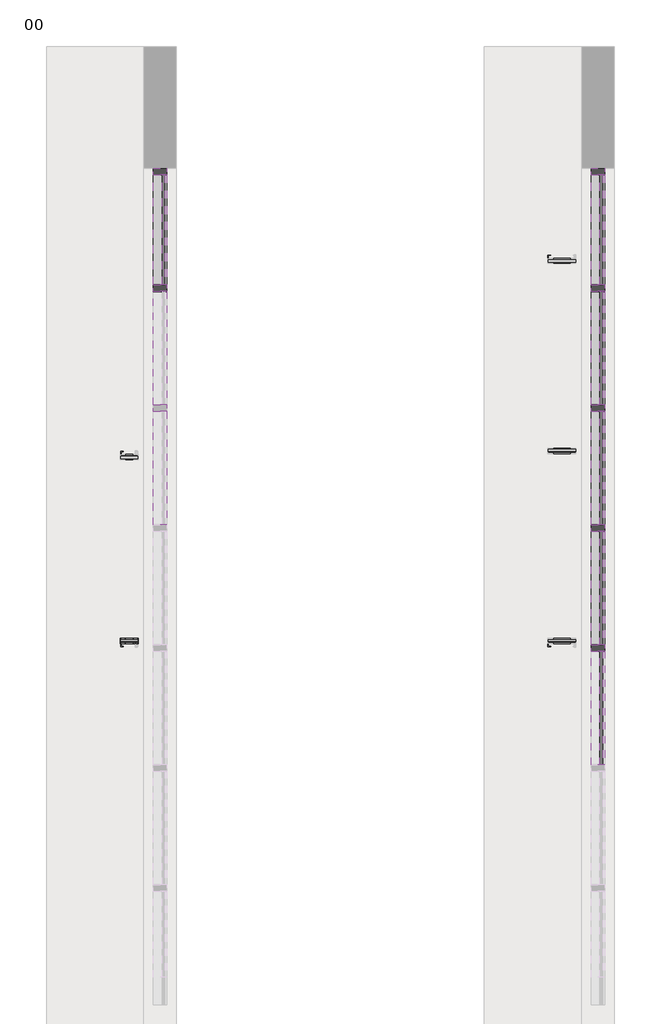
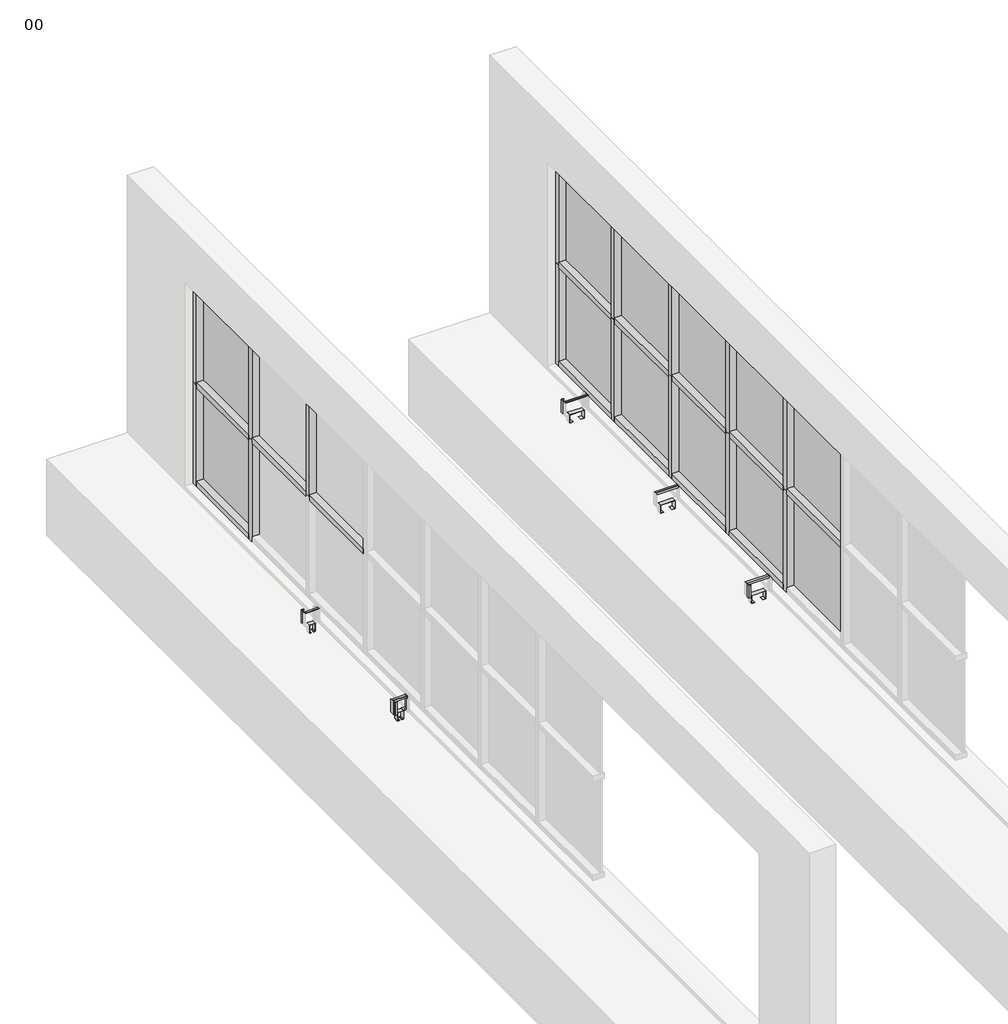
# One storey, part 2 of 4: 35 members, 15 proxies, 12 plates.
"""IFC4 building model written with IfcOpenShell, lengths in millimetres."""

from ifc_helpers import new_model, si_unit, frame, origin, place, context, project, spatial, polyline, circle_curve, transform, mapped, element, save
from ifc_brep_helpers import plane_surface, cylinder_surface, revolved_surface, advanced_brep
from components import support_bracket_1_support_bracket_4_2f0baab2, support_bracket_12_support_bracket_3_113736d0, support_bracket_13_support_bracket_13_55ad3be6, support_bracket_16_support_bracket_3_4fd1d1bb, support_bracket_21_support_bracket_3_4d450183, support_bracket_23_support_bracket_4_a1764723, support_bracket_25_support_bracket_13_f6224672, support_bracket_27_support_bracket_13_70b3b304, support_bracket_29_support_bracket_13_56b2ad6d, support_bracket_3_support_bracket_3_71282282, support_bracket_7_support_bracket_3_e27765c6, support_bracket_9_support_bracket_4_35a73b24, member_c66fc3aa, member_e0e8bc7f, member_2b49869a, member_e70b02d8, member_ac28e731, member_75074519, member_3d44bae5, member_bad99366, system_panel_glazed_e46957e3, system_panel_glazed_e2c07b03, system_panel_glazed_19fcf1f5, system_panel_glazed_c41cfb10

model = new_model("IFC4")

# Units and contexts
model_context = context("Model", 3, world=origin())
ifc_project = project(units=[si_unit("LENGTHUNIT", "METRE", prefix="MILLI")], contexts=[model_context])

# Site, building, storey
site = spatial("IfcSite", under=ifc_project)
building = spatial("IfcBuilding", under=site)
storey = spatial("IfcBuildingStorey", under=building, Name="00", Elevation=0.0)

# Proxies
placement = place(None, origin())
support_bracket_1_support_bracket_4_shape = support_bracket_1_support_bracket_4_2f0baab2(model_context)
element("IfcBuildingElementProxy", 1, Name="Support Bracket 1 : Support Bracket 4", ObjectType="Support Bracket 1 : Support Bracket 4", at=placement, inside=storey, context=model_context, shape_type="MappedRepresentation", body=[
    mapped(support_bracket_1_support_bracket_4_shape, transform((225.9615841, 8.9577393, 0.0), x_axis=(1.0, 0.0, 0.0), y_axis=(0.0, 1.0, 0.0), z_axis=(0.0, 0.0, 1.0))),
])
support_bracket_12_support_bracket_3_shape = support_bracket_12_support_bracket_3_113736d0(model_context)
element("IfcBuildingElementProxy", 2, Name="Support Bracket 12 : Support Bracket 3", ObjectType="Support Bracket 12 : Support Bracket 3", at=placement, inside=storey, context=model_context, shape_type="MappedRepresentation", body=[
    mapped(support_bracket_12_support_bracket_3_shape, transform((0.0, 6.35, 12.859367), x_axis=(1.0, 0.0, 0.0), y_axis=(0.0, 1.0, 0.0), z_axis=(0.0, 0.0, 1.0))),
])
support_bracket_13_support_bracket_13_shape = support_bracket_13_support_bracket_13_55ad3be6(model_context)
element("IfcBuildingElementProxy", 3, Name="Support Bracket 13 : Support Bracket 13", ObjectType="Support Bracket 13 : Support Bracket 13", at=placement, inside=storey, context=model_context, shape_type="MappedRepresentation", body=[
    mapped(support_bracket_13_support_bracket_13_shape, transform((0.0, 0.0, 0.0), x_axis=(1.0, 0.0, 0.0), y_axis=(0.0, 1.0, 0.0), z_axis=(0.0, 0.0, 1.0))),
])
element("IfcBuildingElementProxy", 4, Name="Support Bracket 14 : Support Bracket 13", ObjectType="Support Bracket 14 : Support Bracket 13", at=placement, inside=storey, context=model_context, shape_type="MappedRepresentation", body=[
    mapped(support_bracket_13_support_bracket_13_shape, transform((0.0, 1787.7035937, 0.0), x_axis=(1.0, 0.0, 0.0), y_axis=(0.0, 1.0, 0.0), z_axis=(0.0, 0.0, 1.0))),
])
element("IfcBuildingElementProxy", 5, Name="Support Bracket 15 : Support Bracket 1", ObjectType="Support Bracket 15 : Support Bracket 1", at=placement, inside=storey, context=model_context, shape_type="AdvancedBrep", body=[
    advanced_brep(
    [(11789.603734, 1112.0182928, 1014.7101562), (11748.8168902, 1112.0182928, 1014.7101562), (11745.7688902, 1112.0182928, 1011.6621562), (11745.7688902, 1112.0182928, 917.448), (11742.7208902, 1112.0182928, 914.4), (11719.7735777, 1112.0182928, 914.4), (11719.7735777, 1112.0182928, 917.575), (11739.5458902, 1112.0182928, 917.575), (11742.5938902, 1112.0182928, 920.623), (11742.5938902, 1112.0182928, 1014.8371562), (11745.6418902, 1112.0182928, 1017.8851562), (11785.285734, 1112.0182928, 1017.8851562), (11788.333734, 1112.0182928, 1020.9331562), (11788.333734, 1112.0182928, 1170.1042846), (11791.508734, 1112.0182928, 1170.1042846), (11791.508734, 1112.0182928, 1016.6151562), (11791.508734, 1061.2182928, 1016.6151562), (11789.603734, 1061.2182928, 1014.7101562), (11791.508734, 1061.2182928, 1170.1042846), (11788.333734, 1061.2182928, 1170.1042846), (11788.333734, 1061.2182928, 1020.9331562), (11785.285734, 1061.2182928, 1017.8851562), (11745.6418902, 1061.2182928, 1017.8851562), (11764.3059261, 1061.2182928, 1017.8851562), (11764.3059261, 1079.4639543, 1017.8851562), (11767.4809261, 1079.4639543, 1017.8851562), (11767.4809261, 1061.2182928, 1017.8851562), (11742.5938902, 1061.2182928, 1014.8371562), (11742.5938902, 1061.2182928, 920.623), (11739.5458902, 1061.2182928, 917.575), (11719.7735777, 1061.2182928, 917.575), (11742.7208902, 1061.2182928, 914.4), (11719.7735777, 1061.2182928, 914.4), (11745.7688902, 1061.2182928, 917.448), (11745.7688902, 1061.2182928, 1011.6621562), (11748.8168902, 1061.2182928, 1014.7101562), (11767.518104, 1061.2182928, 1014.7101562), (11767.518104, 1079.4639543, 1014.7101562), (11764.3059261, 1079.4639543, 1014.7101562), (11764.3059261, 1061.2182928, 1014.7101562), (11767.4809261, 1079.4639543, 1015.1226469), (11767.4809261, 1061.2182928, 1015.1226469)],
    [
        (0, 1),
        (1, 2, circle_curve(frame((11748.8168902, 1112.0182928, 1011.6621562), z_axis=(0.0, -1.0, 0.0), x_axis=(-1.0, 0.0, 0.0)), 3.048)),
        (2, 3),
        (3, 4, circle_curve(frame((11742.7208902, 1112.0182928, 917.448), z_axis=(0.0, 1.0, 0.0), x_axis=(-1.0, 0.0, 0.0)), 3.048)),
        (4, 5),
        (5, 6),
        (6, 7),
        (7, 8, circle_curve(frame((11739.5458902, 1112.0182928, 920.623), z_axis=(0.0, -1.0, 0.0), x_axis=(-1.0, 0.0, 0.0)), 3.048)),
        (8, 9),
        (9, 10, circle_curve(frame((11745.6418902, 1112.0182928, 1014.8371562), z_axis=(0.0, 1.0, 0.0), x_axis=(-1.0, 0.0, 0.0)), 3.048)),
        (10, 11),
        (11, 12, circle_curve(frame((11785.285734, 1112.0182928, 1020.9331562), z_axis=(0.0, -1.0, 0.0), x_axis=(-1.0, 0.0, 0.0)), 3.048)),
        (12, 13),
        (13, 14),
        (14, 15),
        (15, 0, circle_curve(frame((11789.603734, 1112.0182928, 1016.6151562), z_axis=(0.0, 1.0, 0.0), x_axis=(-1.0, 0.0, 0.0)), 1.905)),
        (15, 16),
        (16, 17, circle_curve(frame((11789.603734, 1061.2182928, 1016.6151562), z_axis=(0.0, 1.0, 0.0), x_axis=(-1.0, 0.0, 0.0)), 1.905)),
        (17, 0),
        (14, 18),
        (18, 16),
        (13, 19),
        (19, 18),
        (12, 20),
        (20, 19),
        (11, 21),
        (21, 20, circle_curve(frame((11785.285734, 1061.2182928, 1020.9331562), z_axis=(0.0, -1.0, 0.0), x_axis=(-1.0, 0.0, 0.0)), 3.048)),
        (10, 22),
        (22, 23),
        (23, 24),
        (24, 25),
        (25, 26),
        (26, 21),
        (9, 27),
        (27, 22, circle_curve(frame((11745.6418902, 1061.2182928, 1014.8371562), z_axis=(0.0, 1.0, 0.0), x_axis=(-1.0, 0.0, 0.0)), 3.048)),
        (8, 28),
        (28, 27),
        (7, 29),
        (29, 28, circle_curve(frame((11739.5458902, 1061.2182928, 920.623), z_axis=(0.0, -1.0, 0.0), x_axis=(-1.0, 0.0, 0.0)), 3.048)),
        (6, 30),
        (30, 29),
        (4, 31),
        (31, 32),
        (32, 5),
        (3, 33),
        (33, 31, circle_curve(frame((11742.7208902, 1061.2182928, 917.448), z_axis=(0.0, 1.0, 0.0), x_axis=(-1.0, 0.0, 0.0)), 3.048)),
        (2, 34),
        (34, 33),
        (1, 35),
        (35, 34, circle_curve(frame((11748.8168902, 1061.2182928, 1011.6621562), z_axis=(0.0, -1.0, 0.0), x_axis=(-1.0, 0.0, 0.0)), 3.048)),
        (17, 36),
        (36, 37),
        (37, 38),
        (38, 39),
        (39, 35),
        (30, 32),
        (39, 23),
        (24, 38),
        (37, 40, circle_curve(frame((11769.7878177, 1079.4639543, 1015.1226469), z_axis=(0.0, 1.0, 0.0), x_axis=(1.0, 0.0, 0.0)), 2.3068916)),
        (40, 25),
        (36, 41, circle_curve(frame((11769.7878177, 1061.2182928, 1015.1226469), z_axis=(0.0, 1.0, 0.0), x_axis=(1.0, 0.0, 0.0)), 2.3068916)),
        (41, 40),
        (41, 26),
    ],
    [
        plane_surface(frame((11637.918109, 1112.0182928, 1014.7101563), z_axis=(0.0, 1.0, 0.0), x_axis=(-1.0, 0.0, 0.0))),
        cylinder_surface(frame((11789.603734, 1061.2182928, 1016.6151562), z_axis=(0.0, -1.0, 0.0), x_axis=(-1.0, 0.0, 0.0)), 1.905),
        plane_surface(frame((11791.508734, 1061.2182928, 1016.6151562), z_axis=(1.0, 0.0, 0.0), x_axis=(0.0, 1.0, 0.0))),
        plane_surface(frame((11791.508734, 1061.2182928, 1170.1042846), z_axis=(0.0, 0.0, 1.0), x_axis=(0.0, 1.0, 0.0))),
        plane_surface(frame((11788.333734, 1061.2182928, 1170.1042846), z_axis=(-1.0, 0.0, 0.0), x_axis=(0.0, 1.0, 0.0))),
        revolved_surface(polyline([(11782.237733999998, 1112.0182928, 1020.9331562), (11782.237733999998, 1061.2182928, 1020.9331562)]), (11785.285734, 1061.2182928, 1020.9331562), (0.0, 1.0, 0.0)),
        plane_surface(frame((11785.285734, 1061.2182928, 1017.8851562), z_axis=(0.0, 0.0, 1.0), x_axis=(0.0, 1.0, 0.0))),
        cylinder_surface(frame((11745.6418902, 1061.2182928, 1014.8371562), z_axis=(0.0, -1.0, 0.0), x_axis=(-1.0, 0.0, 0.0)), 3.048),
        plane_surface(frame((11742.5938902, 1061.2182928, 1014.8371562), z_axis=(-1.0, 0.0, 0.0), x_axis=(0.0, 1.0, 0.0))),
        revolved_surface(polyline([(11736.497890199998, 1112.0182928, 920.623), (11736.497890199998, 1061.2182928, 920.623)]), (11739.5458902, 1061.2182928, 920.623), (0.0, 1.0, 0.0)),
        plane_surface(frame((11739.5458902, 1061.2182928, 917.575), z_axis=(0.0, 0.0, 1.0), x_axis=(0.0, 1.0, 0.0))),
        plane_surface(frame((11719.7735777, 1061.2182928, 914.4), z_axis=(0.0, 0.0, -1.0), x_axis=(0.0, 1.0, 0.0))),
        cylinder_surface(frame((11742.7208902, 1061.2182928, 917.448), z_axis=(0.0, -1.0, 0.0), x_axis=(-1.0, 0.0, 0.0)), 3.048),
        plane_surface(frame((11745.7688902, 1061.2182928, 917.448), z_axis=(1.0, 0.0, 0.0), x_axis=(0.0, 1.0, 0.0))),
        revolved_surface(polyline([(11745.768890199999, 1112.0182928, 1011.6621562), (11745.768890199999, 1061.2182928, 1011.6621562)]), (11748.8168902, 1061.2182928, 1011.6621562), (0.0, 1.0, 0.0)),
        plane_surface(frame((11748.8168902, 1061.2182928, 1014.7101562), z_axis=(0.0, 0.0, -1.0), x_axis=(0.0, 1.0, 0.0))),
        plane_surface(frame((11637.918109, 1061.2182928, 1014.7101562), z_axis=(0.0, -1.0, 0.0), x_axis=(1.0, 0.0, 0.0))),
        plane_surface(frame((11719.7735777, 1061.2182928, 917.575), z_axis=(-1.0, 0.0, 0.0), x_axis=(0.0, 1.0, 0.0))),
        plane_surface(frame((11767.4809261, 1079.4639543, 1025.7141928), z_axis=(0.0, -1.0, 0.0), x_axis=(1.0, 0.0, 0.0))),
        plane_surface(frame((11764.3059261, 1030.7382928, 1025.7141928), z_axis=(1.0, 0.0, 0.0), x_axis=(0.0, 1.0, 0.0))),
        cylinder_surface(frame((11769.7878177, 1079.4639543, 1015.1226469), z_axis=(0.0, 1.0, 0.0), x_axis=(1.0, 0.0, 0.0)), 2.3068916),
        plane_surface(frame((11767.4809261, 1030.7382928, 1015.1226469), z_axis=(-1.0, 0.0, 0.0), x_axis=(0.0, 1.0, 0.0))),
    ],
    [
        (0, [[1, 2, 3, 4, 5, 6, 7, 8, 9, 10, 11, 12, 13, 14, 15, 16]]),
        (1, [[-16, 17, 18, 19]]),
        (2, [[-15, 20, 21, -17]]),
        (3, [[-14, 22, 23, -20]]),
        (4, [[-13, 24, 25, -22]]),
        (5, [[-12, 26, 27, -24]]),
        (6, [[-11, 28, 29, 30, 31, 32, 33, -26]]),
        (7, [[-10, 34, 35, -28]]),
        (8, [[-9, 36, 37, -34]]),
        (9, [[-8, 38, 39, -36]]),
        (10, [[-7, 40, 41, -38]]),
        (11, [[-5, 42, 43, 44]]),
        (12, [[-4, 45, 46, -42]]),
        (13, [[-3, 47, 48, -45]]),
        (14, [[-2, 49, 50, -47]]),
        (15, [[-1, -19, 51, 52, 53, 54, 55, -49]]),
        (16, [[-35, -37, -39, -41, 56, -43, -46, -48, -50, -55, 57, -29]]),
        (17, [[-6, -44, -56, -40]]),
        (18, [[58, -53, 59, 60, -31]]),
        (19, [[-58, -30, -57, -54]]),
        (20, [[-59, -52, 61, 62]]),
        (21, [[-60, -62, 63, -32]]),
        (16, [[-18, -21, -23, -25, -27, -33, -63, -61, -51]]),
    ],
),
    advanced_brep(
    [(11625.7340465, 1061.2182928, 1014.7101562), (11666.5208902, 1061.2182928, 1014.7101562), (11669.5688902, 1061.2182928, 1011.6621562), (11669.5688902, 1061.2182928, 917.448), (11672.6168902, 1061.2182928, 914.4), (11695.5642027, 1061.2182928, 914.4), (11695.5642027, 1061.2182928, 917.575), (11675.7918902, 1061.2182928, 917.575), (11672.7438902, 1061.2182928, 920.623), (11672.7438902, 1061.2182928, 1014.8371562), (11669.6958902, 1061.2182928, 1017.8851562), (11630.0520465, 1061.2182928, 1017.8851562), (11627.0040465, 1061.2182928, 1020.9331562), (11627.0040465, 1061.2182928, 1170.1042846), (11623.8290465, 1061.2182928, 1170.1042846), (11623.8290465, 1061.2182928, 1016.6151562), (11625.7340465, 1112.0182928, 1014.7101563), (11666.5208902, 1112.0182928, 1014.7101563), (11669.5688902, 1112.0182928, 1011.6621563), (11669.5688902, 1112.0182928, 917.448), (11672.6168902, 1112.0182928, 914.4), (11695.5642027, 1112.0182928, 914.4), (11695.5642027, 1112.0182928, 917.575), (11675.7918902, 1112.0182928, 917.575), (11672.7438902, 1112.0182928, 920.623), (11672.7438902, 1112.0182928, 1014.8371563), (11669.6958902, 1112.0182928, 1017.8851563), (11630.0520465, 1112.0182928, 1017.8851563), (11627.0040465, 1112.0182928, 1020.9331563), (11627.0040465, 1112.0182928, 1170.1042846), (11623.8290465, 1112.0182928, 1170.1042846), (11623.8290465, 1112.0182928, 1016.6151563)],
    [
        (0, 1),
        (1, 2, circle_curve(frame((11666.5208902, 1061.2182928, 1011.6621562), z_axis=(0.0, 1.0, 0.0), x_axis=(1.0, 0.0, 0.0)), 3.048)),
        (2, 3),
        (3, 4, circle_curve(frame((11672.6168902, 1061.2182928, 917.448), z_axis=(0.0, -1.0, 0.0), x_axis=(1.0, 0.0, 0.0)), 3.048)),
        (4, 5),
        (5, 6),
        (6, 7),
        (7, 8, circle_curve(frame((11675.7918902, 1061.2182928, 920.623), z_axis=(0.0, 1.0, 0.0), x_axis=(1.0, 0.0, 0.0)), 3.048)),
        (8, 9),
        (9, 10, circle_curve(frame((11669.6958902, 1061.2182928, 1014.8371562), z_axis=(0.0, -1.0, 0.0), x_axis=(1.0, 0.0, 0.0)), 3.048)),
        (10, 11),
        (11, 12, circle_curve(frame((11630.0520465, 1061.2182928, 1020.9331562), z_axis=(0.0, 1.0, 0.0), x_axis=(1.0, 0.0, 0.0)), 3.048)),
        (12, 13),
        (13, 14),
        (14, 15),
        (15, 0, circle_curve(frame((11625.7340465, 1061.2182928, 1016.6151562), z_axis=(0.0, -1.0, 0.0), x_axis=(1.0, 0.0, 0.0)), 1.905)),
        (16, 17),
        (17, 1),
        (0, 16),
        (17, 18, circle_curve(frame((11666.5208902, 1112.0182928, 1011.6621563), z_axis=(0.0, 1.0, 0.0), x_axis=(1.0, 0.0, 0.0)), 3.048)),
        (18, 2),
        (18, 19),
        (19, 3),
        (19, 20, circle_curve(frame((11672.6168902, 1112.0182928, 917.448), z_axis=(0.0, -1.0, 0.0), x_axis=(1.0, 0.0, 0.0)), 3.048)),
        (20, 4),
        (20, 21),
        (21, 5),
        (22, 23),
        (23, 7),
        (6, 22),
        (23, 24, circle_curve(frame((11675.7918902, 1112.0182928, 920.623), z_axis=(0.0, 1.0, 0.0), x_axis=(1.0, 0.0, 0.0)), 3.048)),
        (24, 8),
        (24, 25),
        (25, 9),
        (25, 26, circle_curve(frame((11669.6958902, 1112.0182928, 1014.8371563), z_axis=(0.0, -1.0, 0.0), x_axis=(1.0, 0.0, 0.0)), 3.048)),
        (26, 10),
        (26, 27),
        (27, 11),
        (27, 28, circle_curve(frame((11630.0520465, 1112.0182928, 1020.9331563), z_axis=(0.0, 1.0, 0.0), x_axis=(1.0, 0.0, 0.0)), 3.048)),
        (28, 12),
        (28, 29),
        (29, 13),
        (29, 30),
        (30, 14),
        (30, 31),
        (31, 15),
        (31, 16, circle_curve(frame((11625.7340465, 1112.0182928, 1016.6151563), z_axis=(0.0, -1.0, 0.0), x_axis=(1.0, 0.0, 0.0)), 1.905)),
        (22, 21),
    ],
    [
        plane_surface(frame((11637.918109, 1061.2182928, 1014.7101562), z_axis=(0.0, -1.0, 0.0), x_axis=(1.0, 0.0, 0.0))),
        plane_surface(frame((11625.7340465, 1061.2182928, 1014.7101562), z_axis=(0.0, 0.0, -1.0), x_axis=(0.0, 1.0, 0.0))),
        revolved_surface(polyline([(11669.5688902, 1112.0182928, 1011.6621563), (11669.5688902, 1061.2182928, 1011.6621563)]), (11666.5208902, 1112.0182928, 1011.6621563), (0.0, 1.0, 0.0)),
        plane_surface(frame((11669.5688902, 1061.2182928, 1011.6621562), z_axis=(-1.0, 0.0, 0.0), x_axis=(0.0, 1.0, 0.0))),
        cylinder_surface(frame((11672.6168902, 1112.0182928, 917.448), z_axis=(0.0, -1.0, 0.0), x_axis=(1.0, 0.0, 0.0)), 3.048),
        plane_surface(frame((11672.6168902, 1061.2182928, 914.4), z_axis=(0.0, 0.0, -1.0), x_axis=(0.0, 1.0, 0.0))),
        plane_surface(frame((11695.5642027, 1061.2182928, 917.575), z_axis=(0.0, 0.0, 1.0), x_axis=(0.0, 1.0, 0.0))),
        revolved_surface(polyline([(11678.8398902, 1112.0182928, 920.623), (11678.8398902, 1061.2182928, 920.623)]), (11675.7918902, 1112.0182928, 920.623), (0.0, 1.0, 0.0)),
        plane_surface(frame((11672.7438902, 1061.2182928, 920.623), z_axis=(1.0, 0.0, 0.0), x_axis=(0.0, 1.0, 0.0))),
        cylinder_surface(frame((11669.6958902, 1112.0182928, 1014.8371563), z_axis=(0.0, -1.0, 0.0), x_axis=(1.0, 0.0, 0.0)), 3.048),
        plane_surface(frame((11669.6958902, 1061.2182928, 1017.8851562), z_axis=(0.0, 0.0, 1.0), x_axis=(0.0, 1.0, 0.0))),
        revolved_surface(polyline([(11633.100046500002, 1112.0182928, 1020.9331563), (11633.100046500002, 1061.2182928, 1020.9331563)]), (11630.0520465, 1112.0182928, 1020.9331563), (0.0, 1.0, 0.0)),
        plane_surface(frame((11627.0040465, 1061.2182928, 1020.9331562), z_axis=(1.0, 0.0, 0.0), x_axis=(0.0, 1.0, 0.0))),
        plane_surface(frame((11627.0040465, 1061.2182928, 1170.1042846), z_axis=(0.0, 0.0, 1.0), x_axis=(0.0, 1.0, 0.0))),
        plane_surface(frame((11623.8290465, 1061.2182928, 1170.1042846), z_axis=(-1.0, 0.0, 0.0), x_axis=(0.0, 1.0, 0.0))),
        cylinder_surface(frame((11625.7340465, 1112.0182928, 1016.6151563), z_axis=(0.0, -1.0, 0.0), x_axis=(1.0, 0.0, 0.0)), 1.905),
        plane_surface(frame((11637.918109, 1112.0182928, 1014.7101563), z_axis=(0.0, 1.0, 0.0), x_axis=(-1.0, 0.0, 0.0))),
        plane_surface(frame((11695.5642027, 1061.2182928, 914.4), z_axis=(1.0, 0.0, 0.0), x_axis=(0.0, 1.0, 0.0))),
    ],
    [
        (0, [[1, 2, 3, 4, 5, 6, 7, 8, 9, 10, 11, 12, 13, 14, 15, 16]]),
        (1, [[17, 18, -1, 19]]),
        (2, [[20, 21, -2, -18]]),
        (3, [[22, 23, -3, -21]]),
        (4, [[24, 25, -4, -23]]),
        (5, [[26, 27, -5, -25]]),
        (6, [[28, 29, -7, 30]]),
        (7, [[31, 32, -8, -29]]),
        (8, [[33, 34, -9, -32]]),
        (9, [[35, 36, -10, -34]]),
        (10, [[37, 38, -11, -36]]),
        (11, [[39, 40, -12, -38]]),
        (12, [[41, 42, -13, -40]]),
        (13, [[43, 44, -14, -42]]),
        (14, [[45, 46, -15, -44]]),
        (15, [[47, -19, -16, -46]]),
        (16, [[-47, -45, -43, -41, -39, -37, -35, -33, -31, -28, 48, -26, -24, -22, -20, -17]]),
        (17, [[-48, -30, -6, -27]]),
    ],
),
])
support_bracket_16_support_bracket_3_shape = support_bracket_16_support_bracket_3_4fd1d1bb(model_context)
element("IfcBuildingElementProxy", 6, Name="Support Bracket 16 : Support Bracket 3", ObjectType="Support Bracket 16 : Support Bracket 3", at=placement, inside=storey, context=model_context, shape_type="MappedRepresentation", body=[
    mapped(support_bracket_16_support_bracket_3_shape, transform((0.0, 6.35, 12.859367), x_axis=(1.0, 0.0, 0.0), y_axis=(0.0, 1.0, 0.0), z_axis=(0.0, 0.0, 1.0))),
])
element("IfcBuildingElementProxy", 7, Name="Support Bracket 18 : Support Bracket 4", ObjectType="Support Bracket 18 : Support Bracket 4", at=placement, inside=storey, context=model_context, shape_type="MappedRepresentation", body=[
    mapped(support_bracket_1_support_bracket_4_shape, transform((-3790.2149784, 8.9577393, 0.0), x_axis=(1.0, 0.0, 0.0), y_axis=(0.0, 1.0, 0.0), z_axis=(0.0, 0.0, 1.0))),
])
support_bracket_21_support_bracket_3_shape = support_bracket_21_support_bracket_3_4d450183(model_context)
element("IfcBuildingElementProxy", 8, Name="Support Bracket 21 : Support Bracket 3", ObjectType="Support Bracket 21 : Support Bracket 3", at=placement, inside=storey, context=model_context, shape_type="MappedRepresentation", body=[
    mapped(support_bracket_21_support_bracket_3_shape, transform((0.0, -6.35, 12.859367), x_axis=(1.0, 0.0, 0.0), y_axis=(0.0, 1.0, 0.0), z_axis=(0.0, 0.0, 1.0))),
])
support_bracket_23_support_bracket_4_shape = support_bracket_23_support_bracket_4_a1764723(model_context)
element("IfcBuildingElementProxy", 9, Name="Support Bracket 23 : Support Bracket 4", ObjectType="Support Bracket 23 : Support Bracket 4", at=placement, inside=storey, context=model_context, shape_type="MappedRepresentation", body=[
    mapped(support_bracket_23_support_bracket_4_shape, transform((-3790.2149784, -8.9577393, 0.0), x_axis=(1.0, 0.0, 0.0), y_axis=(0.0, 1.0, 0.0), z_axis=(0.0, 0.0, 1.0))),
])
support_bracket_25_support_bracket_13_shape = support_bracket_25_support_bracket_13_f6224672(model_context)
element("IfcBuildingElementProxy", 10, Name="Support Bracket 25 : Support Bracket 13", ObjectType="Support Bracket 25 : Support Bracket 13", at=placement, inside=storey, context=model_context, shape_type="MappedRepresentation", body=[
    mapped(support_bracket_25_support_bracket_13_shape, transform((0.0, 0.0, 0.0), x_axis=(1.0, 0.0, 0.0), y_axis=(0.0, 1.0, 0.0), z_axis=(0.0, 0.0, 1.0))),
])
support_bracket_27_support_bracket_13_shape = support_bracket_27_support_bracket_13_70b3b304(model_context)
element("IfcBuildingElementProxy", 11, Name="Support Bracket 27 : Support Bracket 13", ObjectType="Support Bracket 27 : Support Bracket 13", at=placement, inside=storey, context=model_context, shape_type="MappedRepresentation", body=[
    mapped(support_bracket_27_support_bracket_13_shape, transform((0.0, 0.0, 0.0), x_axis=(1.0, 0.0, 0.0), y_axis=(0.0, 1.0, 0.0), z_axis=(0.0, 0.0, 1.0))),
])
support_bracket_29_support_bracket_13_shape = support_bracket_29_support_bracket_13_56b2ad6d(model_context)
element("IfcBuildingElementProxy", 12, Name="Support Bracket 29 : Support Bracket 13", ObjectType="Support Bracket 29 : Support Bracket 13", at=placement, inside=storey, context=model_context, shape_type="MappedRepresentation", body=[
    mapped(support_bracket_29_support_bracket_13_shape, transform((0.0, 0.0, 0.0), x_axis=(1.0, 0.0, 0.0), y_axis=(0.0, 1.0, 0.0), z_axis=(0.0, 0.0, 1.0))),
])
support_bracket_3_support_bracket_3_shape = support_bracket_3_support_bracket_3_71282282(model_context)
element("IfcBuildingElementProxy", 13, Name="Support Bracket 3 : Support Bracket 3", ObjectType="Support Bracket 3 : Support Bracket 3", at=placement, inside=storey, context=model_context, shape_type="MappedRepresentation", body=[
    mapped(support_bracket_3_support_bracket_3_shape, transform((0.0, 6.35, 12.859367), x_axis=(1.0, 0.0, 0.0), y_axis=(0.0, 1.0, 0.0), z_axis=(0.0, 0.0, 1.0))),
])
support_bracket_7_support_bracket_3_shape = support_bracket_7_support_bracket_3_e27765c6(model_context)
element("IfcBuildingElementProxy", 14, Name="Support Bracket 7 : Support Bracket 3", ObjectType="Support Bracket 7 : Support Bracket 3", at=placement, inside=storey, context=model_context, shape_type="MappedRepresentation", body=[
    mapped(support_bracket_7_support_bracket_3_shape, transform((0.0, -6.35, 12.859367), x_axis=(1.0, 0.0, 0.0), y_axis=(0.0, 1.0, 0.0), z_axis=(0.0, 0.0, 1.0))),
])
support_bracket_9_support_bracket_4_shape = support_bracket_9_support_bracket_4_35a73b24(model_context)
element("IfcBuildingElementProxy", 15, Name="Support Bracket 9 : Support Bracket 4", ObjectType="Support Bracket 9 : Support Bracket 4", at=placement, inside=storey, context=model_context, shape_type="MappedRepresentation", body=[
    mapped(support_bracket_9_support_bracket_4_shape, transform((225.9615841, -8.9577393, 0.0), x_axis=(1.0, 0.0, 0.0), y_axis=(0.0, 1.0, 0.0), z_axis=(0.0, 0.0, 1.0))),
])

# Members
member_shape = member_c66fc3aa(model_context)
element("IfcMember", 16, ObjectType="Rectangular Mullion : 2.5\" x 5\" rectangular", at=placement, inside=storey, context=model_context, shape_type="MappedRepresentation", body=[
    mapped(member_shape, transform((16111.3938902, 990.0404245, 3390.4), x_axis=(0.0, 0.0, 1.0), y_axis=(1.0, 0.0, 0.0), z_axis=(0.0, 1.0, 0.0))),
])
element("IfcMember", 17, ObjectType="Rectangular Mullion : 2.5\" x 5\" rectangular", at=placement, inside=storey, context=model_context, shape_type="MappedRepresentation", body=[
    mapped(member_shape, transform((16111.3938902, 2117.8004244, 3390.4), x_axis=(0.0, 0.0, 1.0), y_axis=(1.0, 0.0, 0.0), z_axis=(0.0, 1.0, 0.0))),
])
element("IfcMember", 18, ObjectType="Rectangular Mullion : 2.5\" x 5\" rectangular", at=placement, inside=storey, context=model_context, shape_type="MappedRepresentation", body=[
    mapped(member_shape, transform((16111.3938902, 3245.5604244, 3390.4), x_axis=(0.0, 0.0, 1.0), y_axis=(1.0, 0.0, 0.0), z_axis=(0.0, 1.0, 0.0))),
])
element("IfcMember", 19, ObjectType="Rectangular Mullion : 2.5\" x 5\" rectangular", at=placement, inside=storey, context=model_context, shape_type="MappedRepresentation", body=[
    mapped(member_shape, transform((16111.3938902, 4373.3204243, 3390.4), x_axis=(0.0, 0.0, 1.0), y_axis=(1.0, 0.0, 0.0), z_axis=(0.0, 1.0, 0.0))),
])
element("IfcMember", 20, ObjectType="Rectangular Mullion : 2.5\" x 5\" rectangular", at=placement, inside=storey, context=model_context, shape_type="MappedRepresentation", body=[
    mapped(member_shape, transform((11996.5938902, 4373.3204243, 3390.4), x_axis=(0.0, 0.0, 1.0), y_axis=(1.0, 0.0, 0.0), z_axis=(0.0, 1.0, 0.0))),
])
member_2_shape = member_e0e8bc7f(model_context)
element("IfcMember", 21, ObjectType="Rectangular Mullion : 2.5\" x 5\" rectangular", at=placement, inside=storey, context=model_context, shape_type="MappedRepresentation", body=[
    mapped(member_2_shape, transform((16111.3938902, 4436.8204243, 965.2), x_axis=(0.0, 0.0, -1.0), y_axis=(1.0, 0.0, 0.0), z_axis=(0.0, -1.0, 0.0))),
])
element("IfcMember", 22, ObjectType="Rectangular Mullion : 2.5\" x 5\" rectangular", at=placement, inside=storey, context=model_context, shape_type="MappedRepresentation", body=[
    mapped(member_2_shape, transform((11996.5938902, 4436.8204243, 965.2), x_axis=(0.0, 0.0, -1.0), y_axis=(1.0, 0.0, 0.0), z_axis=(0.0, -1.0, 0.0))),
])
element("IfcMember", 23, ObjectType="Rectangular Mullion : 2.5\" x 5\" rectangular", at=placement, inside=storey, context=model_context, shape_type="MappedRepresentation", body=[
    mapped(member_shape, transform((16111.3938902, 1053.5404245, 965.2), x_axis=(0.0, 0.0, -1.0), y_axis=(1.0, 0.0, 0.0), z_axis=(0.0, -1.0, 0.0))),
])
element("IfcMember", 24, ObjectType="Rectangular Mullion : 2.5\" x 5\" rectangular", at=placement, inside=storey, context=model_context, shape_type="MappedRepresentation", body=[
    mapped(member_shape, transform((16111.3938902, 2181.3004244, 965.2), x_axis=(0.0, 0.0, -1.0), y_axis=(1.0, 0.0, 0.0), z_axis=(0.0, -1.0, 0.0))),
])
element("IfcMember", 25, ObjectType="Rectangular Mullion : 2.5\" x 5\" rectangular", at=placement, inside=storey, context=model_context, shape_type="MappedRepresentation", body=[
    mapped(member_shape, transform((16111.3938902, 3309.0604244, 965.2), x_axis=(0.0, 0.0, -1.0), y_axis=(1.0, 0.0, 0.0), z_axis=(0.0, -1.0, 0.0))),
])
member_3_shape = member_2b49869a(model_context)
element("IfcMember", 26, ObjectType="Rectangular Mullion : 2.5\" x 5\" rectangular", at=placement, inside=storey, context=model_context, shape_type="MappedRepresentation", body=[
    mapped(member_3_shape, transform((16111.3938902, 1021.7904245, 965.2), x_axis=(0.0, 1.0, 0.0), y_axis=(1.0, 0.0, 0.0), z_axis=(0.0, 0.0, -1.0))),
])
element("IfcMember", 27, ObjectType="Rectangular Mullion : 2.5\" x 5\" rectangular", at=placement, inside=storey, context=model_context, shape_type="MappedRepresentation", body=[
    mapped(member_3_shape, transform((16111.3938902, 2149.5504244, 965.2), x_axis=(0.0, 1.0, 0.0), y_axis=(1.0, 0.0, 0.0), z_axis=(0.0, 0.0, -1.0))),
])
element("IfcMember", 28, ObjectType="Rectangular Mullion : 2.5\" x 5\" rectangular", at=placement, inside=storey, context=model_context, shape_type="MappedRepresentation", body=[
    mapped(member_3_shape, transform((16111.3938902, 3277.3104244, 965.2), x_axis=(0.0, 1.0, 0.0), y_axis=(1.0, 0.0, 0.0), z_axis=(0.0, 0.0, -1.0))),
])
element("IfcMember", 29, ObjectType="Rectangular Mullion : 2.5\" x 5\" rectangular", at=placement, inside=storey, context=model_context, shape_type="MappedRepresentation", body=[
    mapped(member_3_shape, transform((16111.3938902, 4405.0704243, 965.2), x_axis=(0.0, 1.0, 0.0), y_axis=(1.0, 0.0, 0.0), z_axis=(0.0, 0.0, -1.0))),
])
element("IfcMember", 30, ObjectType="Rectangular Mullion : 2.5\" x 5\" rectangular", at=placement, inside=storey, context=model_context, shape_type="MappedRepresentation", body=[
    mapped(member_3_shape, transform((11996.5938902, 4405.0704243, 965.2), x_axis=(0.0, 1.0, 0.0), y_axis=(1.0, 0.0, 0.0), z_axis=(0.0, 0.0, -1.0))),
])
member_4_shape = member_e70b02d8(model_context)
element("IfcMember", 31, ObjectType="Rectangular Mullion : 2.5\" x 5\" rectangular", at=placement, inside=storey, context=model_context, shape_type="MappedRepresentation", body=[
    mapped(member_4_shape, transform((16111.3938902, 2117.8004244, 2184.4), x_axis=(0.0, 0.0, 1.0), y_axis=(1.0, 0.0, 0.0), z_axis=(0.0, 1.0, 0.0))),
])
element("IfcMember", 32, ObjectType="Rectangular Mullion : 2.5\" x 5\" rectangular", at=placement, inside=storey, context=model_context, shape_type="MappedRepresentation", body=[
    mapped(member_4_shape, transform((16111.3938902, 3245.5604244, 2184.4), x_axis=(0.0, 0.0, 1.0), y_axis=(1.0, 0.0, 0.0), z_axis=(0.0, 1.0, 0.0))),
])
element("IfcMember", 33, ObjectType="Rectangular Mullion : 2.5\" x 5\" rectangular", at=placement, inside=storey, context=model_context, shape_type="MappedRepresentation", body=[
    mapped(member_4_shape, transform((16111.3938902, 4373.3204243, 2184.4), x_axis=(0.0, 0.0, 1.0), y_axis=(1.0, 0.0, 0.0), z_axis=(0.0, 1.0, 0.0))),
])
element("IfcMember", 34, ObjectType="Rectangular Mullion : 2.5\" x 5\" rectangular", at=placement, inside=storey, context=model_context, shape_type="MappedRepresentation", body=[
    mapped(member_4_shape, transform((11996.5938902, 3245.5604244, 2184.4), x_axis=(0.0, 0.0, 1.0), y_axis=(1.0, 0.0, 0.0), z_axis=(0.0, 1.0, 0.0))),
])
element("IfcMember", 35, ObjectType="Rectangular Mullion : 2.5\" x 5\" rectangular", at=placement, inside=storey, context=model_context, shape_type="MappedRepresentation", body=[
    mapped(member_4_shape, transform((11996.5938902, 4373.3204243, 2184.4), x_axis=(0.0, 0.0, 1.0), y_axis=(1.0, 0.0, 0.0), z_axis=(0.0, 1.0, 0.0))),
])
member_5_shape = member_ac28e731(model_context)
element("IfcMember", 36, ObjectType="Rectangular Mullion : 2.5\" x 5\" rectangular", at=placement, inside=storey, context=model_context, shape_type="MappedRepresentation", body=[
    mapped(member_5_shape, transform((16111.3938902, 5469.3304246, 2184.4), x_axis=(0.0, 0.0, 1.0), y_axis=(1.0, 0.0, 0.0), z_axis=(0.0, 1.0, 0.0))),
])
element("IfcMember", 37, ObjectType="Rectangular Mullion : 2.5\" x 5\" rectangular", at=placement, inside=storey, context=model_context, shape_type="MappedRepresentation", body=[
    mapped(member_5_shape, transform((11996.5938902, 5469.3304246, 2184.4), x_axis=(0.0, 0.0, 1.0), y_axis=(1.0, 0.0, 0.0), z_axis=(0.0, 1.0, 0.0))),
])
element("IfcMember", 38, ObjectType="Rectangular Mullion : 2.5\" x 5\" rectangular", at=placement, inside=storey, context=model_context, shape_type="MappedRepresentation", body=[
    mapped(member_4_shape, transform((16111.3938902, 990.0404245, 2184.4), x_axis=(0.0, 0.0, 1.0), y_axis=(1.0, 0.0, 0.0), z_axis=(0.0, 1.0, 0.0))),
])
element("IfcMember", 39, ObjectType="Rectangular Mullion : 2.5\" x 5\" rectangular", at=placement, inside=storey, context=model_context, shape_type="MappedRepresentation", body=[
    mapped(member_2_shape, transform((16111.3938902, 5469.3304246, 3390.4), x_axis=(0.0, 0.0, 1.0), y_axis=(1.0, 0.0, 0.0), z_axis=(0.0, 1.0, 0.0))),
])
element("IfcMember", 40, ObjectType="Rectangular Mullion : 2.5\" x 5\" rectangular", at=placement, inside=storey, context=model_context, shape_type="MappedRepresentation", body=[
    mapped(member_2_shape, transform((11996.5938902, 5469.3304246, 3390.4), x_axis=(0.0, 0.0, 1.0), y_axis=(1.0, 0.0, 0.0), z_axis=(0.0, 1.0, 0.0))),
])
member_6_shape = member_75074519(model_context)
element("IfcMember", 41, ObjectType="Rectangular Mullion : 2.5\" x 5\" rectangular", at=placement, inside=storey, context=model_context, shape_type="MappedRepresentation", body=[
    mapped(member_6_shape, transform((16111.3938902, 5532.8304246, 965.2), x_axis=(0.0, 1.0, 0.0), y_axis=(1.0, 0.0, 0.0), z_axis=(0.0, 0.0, -1.0))),
])
element("IfcMember", 42, ObjectType="Rectangular Mullion : 2.5\" x 5\" rectangular", at=placement, inside=storey, context=model_context, shape_type="MappedRepresentation", body=[
    mapped(member_6_shape, transform((11996.5938902, 5532.8304246, 965.2), x_axis=(0.0, 1.0, 0.0), y_axis=(1.0, 0.0, 0.0), z_axis=(0.0, 0.0, -1.0))),
])
member_7_shape = member_3d44bae5(model_context)
element("IfcMember", 43, ObjectType="Rectangular Mullion : 2.5\" x 5\" rectangular", at=placement, inside=storey, context=model_context, shape_type="MappedRepresentation", body=[
    mapped(member_7_shape, transform((16111.3938902, 1021.7904245, 2184.4), x_axis=(0.0, 1.0, 0.0), y_axis=(1.0, 0.0, 0.0), z_axis=(0.0, 0.0, -1.0))),
])
element("IfcMember", 44, ObjectType="Rectangular Mullion : 2.5\" x 5\" rectangular", at=placement, inside=storey, context=model_context, shape_type="MappedRepresentation", body=[
    mapped(member_7_shape, transform((16111.3938902, 2149.5504244, 2184.4), x_axis=(0.0, 1.0, 0.0), y_axis=(1.0, 0.0, 0.0), z_axis=(0.0, 0.0, -1.0))),
])
element("IfcMember", 45, ObjectType="Rectangular Mullion : 2.5\" x 5\" rectangular", at=placement, inside=storey, context=model_context, shape_type="MappedRepresentation", body=[
    mapped(member_7_shape, transform((16111.3938902, 3277.3104244, 2184.4), x_axis=(0.0, 1.0, 0.0), y_axis=(1.0, 0.0, 0.0), z_axis=(0.0, 0.0, -1.0))),
])
element("IfcMember", 46, ObjectType="Rectangular Mullion : 2.5\" x 5\" rectangular", at=placement, inside=storey, context=model_context, shape_type="MappedRepresentation", body=[
    mapped(member_7_shape, transform((16111.3938902, 4405.0704243, 2184.4), x_axis=(0.0, 1.0, 0.0), y_axis=(1.0, 0.0, 0.0), z_axis=(0.0, 0.0, -1.0))),
])
element("IfcMember", 47, ObjectType="Rectangular Mullion : 2.5\" x 5\" rectangular", at=placement, inside=storey, context=model_context, shape_type="MappedRepresentation", body=[
    mapped(member_7_shape, transform((11996.5938902, 3277.3104244, 2184.4), x_axis=(0.0, 1.0, 0.0), y_axis=(1.0, 0.0, 0.0), z_axis=(0.0, 0.0, -1.0))),
])
element("IfcMember", 48, ObjectType="Rectangular Mullion : 2.5\" x 5\" rectangular", at=placement, inside=storey, context=model_context, shape_type="MappedRepresentation", body=[
    mapped(member_7_shape, transform((11996.5938902, 4405.0704243, 2184.4), x_axis=(0.0, 1.0, 0.0), y_axis=(1.0, 0.0, 0.0), z_axis=(0.0, 0.0, -1.0))),
])
member_8_shape = member_bad99366(model_context)
element("IfcMember", 49, ObjectType="Rectangular Mullion : 2.5\" x 5\" rectangular", at=placement, inside=storey, context=model_context, shape_type="MappedRepresentation", body=[
    mapped(member_8_shape, transform((16111.3938902, 5532.8304246, 2184.4), x_axis=(0.0, 1.0, 0.0), y_axis=(1.0, 0.0, 0.0), z_axis=(0.0, 0.0, -1.0))),
])
element("IfcMember", 50, ObjectType="Rectangular Mullion : 2.5\" x 5\" rectangular", at=placement, inside=storey, context=model_context, shape_type="MappedRepresentation", body=[
    mapped(member_8_shape, transform((11996.5938902, 5532.8304246, 2184.4), x_axis=(0.0, 1.0, 0.0), y_axis=(1.0, 0.0, 0.0), z_axis=(0.0, 0.0, -1.0))),
])

# Plates
system_panel_glazed_shape = system_panel_glazed_e46957e3(model_context)
element("IfcPlate", 51, ObjectType="System Panel : Glazed", at=placement, inside=storey, context=model_context, shape_type="MappedRepresentation", body=[
    mapped(system_panel_glazed_shape, transform((16111.3938902, 1585.6704245, 1028.7), x_axis=(0.0, 1.0, 0.0), y_axis=(-1.0, 0.0, 0.0), z_axis=(0.0, 0.0, 1.0))),
])
element("IfcPlate", 52, ObjectType="System Panel : Glazed", at=placement, inside=storey, context=model_context, shape_type="MappedRepresentation", body=[
    mapped(system_panel_glazed_shape, transform((16111.3938902, 2713.4304244, 1028.7), x_axis=(0.0, 1.0, 0.0), y_axis=(-1.0, 0.0, 0.0), z_axis=(0.0, 0.0, 1.0))),
])
element("IfcPlate", 53, ObjectType="System Panel : Glazed", at=placement, inside=storey, context=model_context, shape_type="MappedRepresentation", body=[
    mapped(system_panel_glazed_shape, transform((16111.3938902, 3841.1904244, 1028.7), x_axis=(0.0, 1.0, 0.0), y_axis=(-1.0, 0.0, 0.0), z_axis=(0.0, 0.0, 1.0))),
])
element("IfcPlate", 54, ObjectType="System Panel : Glazed", at=placement, inside=storey, context=model_context, shape_type="MappedRepresentation", body=[
    mapped(system_panel_glazed_shape, transform((16111.3938902, 457.9104245, 1028.7), x_axis=(0.0, 1.0, 0.0), y_axis=(-1.0, 0.0, 0.0), z_axis=(0.0, 0.0, 1.0))),
])
system_panel_glazed_2_shape = system_panel_glazed_e2c07b03(model_context)
element("IfcPlate", 55, ObjectType="System Panel : Glazed", at=placement, inside=storey, context=model_context, shape_type="MappedRepresentation", body=[
    mapped(system_panel_glazed_2_shape, transform((16111.3938902, 4953.0754244, 1028.7), x_axis=(0.0, 1.0, 0.0), y_axis=(-1.0, 0.0, 0.0), z_axis=(0.0, 0.0, 1.0))),
])
element("IfcPlate", 56, ObjectType="System Panel : Glazed", at=placement, inside=storey, context=model_context, shape_type="MappedRepresentation", body=[
    mapped(system_panel_glazed_2_shape, transform((11996.5938902, 4953.0754244, 1028.7), x_axis=(0.0, 1.0, 0.0), y_axis=(-1.0, 0.0, 0.0), z_axis=(0.0, 0.0, 1.0))),
])
system_panel_glazed_3_shape = system_panel_glazed_19fcf1f5(model_context)
element("IfcPlate", 57, ObjectType="System Panel : Glazed", at=placement, inside=storey, context=model_context, shape_type="MappedRepresentation", body=[
    mapped(system_panel_glazed_3_shape, transform((16111.3938902, 4953.0754244, 2216.15), x_axis=(0.0, 1.0, 0.0), y_axis=(-1.0, 0.0, 0.0), z_axis=(0.0, 0.0, 1.0))),
])
element("IfcPlate", 58, ObjectType="System Panel : Glazed", at=placement, inside=storey, context=model_context, shape_type="MappedRepresentation", body=[
    mapped(system_panel_glazed_3_shape, transform((11996.5938902, 4953.0754244, 2216.15), x_axis=(0.0, 1.0, 0.0), y_axis=(-1.0, 0.0, 0.0), z_axis=(0.0, 0.0, 1.0))),
])
system_panel_glazed_4_shape = system_panel_glazed_c41cfb10(model_context)
element("IfcPlate", 59, ObjectType="System Panel : Glazed", at=placement, inside=storey, context=model_context, shape_type="MappedRepresentation", body=[
    mapped(system_panel_glazed_4_shape, transform((16111.3938902, 1585.6704245, 2216.15), x_axis=(0.0, 1.0, 0.0), y_axis=(-1.0, 0.0, 0.0), z_axis=(0.0, 0.0, 1.0))),
])
element("IfcPlate", 60, ObjectType="System Panel : Glazed", at=placement, inside=storey, context=model_context, shape_type="MappedRepresentation", body=[
    mapped(system_panel_glazed_4_shape, transform((16111.3938902, 2713.4304244, 2216.15), x_axis=(0.0, 1.0, 0.0), y_axis=(-1.0, 0.0, 0.0), z_axis=(0.0, 0.0, 1.0))),
])
element("IfcPlate", 61, ObjectType="System Panel : Glazed", at=placement, inside=storey, context=model_context, shape_type="MappedRepresentation", body=[
    mapped(system_panel_glazed_4_shape, transform((16111.3938902, 3841.1904244, 2216.15), x_axis=(0.0, 1.0, 0.0), y_axis=(-1.0, 0.0, 0.0), z_axis=(0.0, 0.0, 1.0))),
])
element("IfcPlate", 62, ObjectType="System Panel : Glazed", at=placement, inside=storey, context=model_context, shape_type="MappedRepresentation", body=[
    mapped(system_panel_glazed_4_shape, transform((16111.3938902, 457.9104245, 2216.15), x_axis=(0.0, 1.0, 0.0), y_axis=(-1.0, 0.0, 0.0), z_axis=(0.0, 0.0, 1.0))),
])

save(model, "model.ifc")
